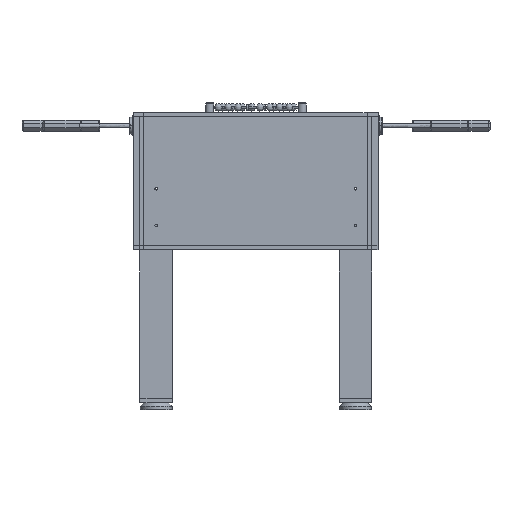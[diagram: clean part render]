
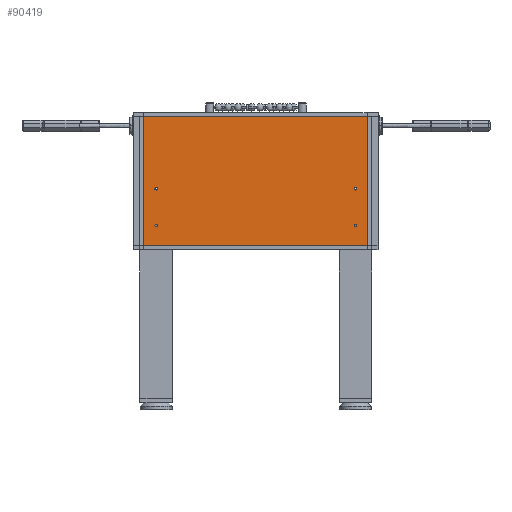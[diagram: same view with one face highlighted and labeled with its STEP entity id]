
A CAD part, left-side view. The second image highlights one B-rep face of the part: STEP entity #90419.
In plain terms, the highlighted free-form (B-spline) face has degree [1, 1] with [2, 2] control points.
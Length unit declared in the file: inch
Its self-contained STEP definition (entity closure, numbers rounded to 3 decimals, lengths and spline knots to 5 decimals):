
#90279 = CARTESIAN_POINT ('', (-28., -12.40625, -4.625));
#90280 = VERTEX_POINT ('', #90279);
#90299 = CARTESIAN_POINT ('', (-28., -12.40625, -4.625));
#90300 = CARTESIAN_POINT ('', (-28., -12.40625, -4.46875));
#90301 = CARTESIAN_POINT ('', (-28., -12.25, -4.46875));
#90302 = CARTESIAN_POINT ('', (-28., -12.09375, -4.46875));
#90303 = CARTESIAN_POINT ('', (-28., -12.09375, -4.625));
#90304 = CARTESIAN_POINT ('', (-28., -12.09375, -4.78125));
#90305 = CARTESIAN_POINT ('', (-28., -12.25, -4.78125));
#90306 = CARTESIAN_POINT ('', (-28., -12.40625, -4.78125));
#90307 = CARTESIAN_POINT ('', (-28., -12.40625, -4.625));
#90308 = (
   BOUNDED_CURVE ()
   B_SPLINE_CURVE (2, (#90299, #90300, #90301, #90302, #90303, #90304, #90305, #90306, #90307), .UNSPECIFIED., .T., .U.)
   B_SPLINE_CURVE_WITH_KNOTS ((3, 2, 2, 2, 3), (0., 0.25, 0.5, 0.75, 1.), .UNSPECIFIED.)
   CURVE ()
   GEOMETRIC_REPRESENTATION_ITEM ()
   RATIONAL_B_SPLINE_CURVE ((1., 0.707, 1., 0.707, 1., 0.707, 1., 0.707, 1.))
   REPRESENTATION_ITEM ('')
);
#90309 = EDGE_CURVE ('', #90280, #90280, #90308, .T.);
#90333 = CARTESIAN_POINT ('', (-28., -14.25, 4.25));
#90334 = VERTEX_POINT ('', #90333);
#90335 = CARTESIAN_POINT ('', (-28., 14.25, 4.25));
#90336 = VERTEX_POINT ('', #90335);
#90337 = CARTESIAN_POINT ('', (-28., -14.25, 4.25));
#90338 = CARTESIAN_POINT ('', (-28., 14.25, 4.25));
#90339 = B_SPLINE_CURVE_WITH_KNOTS ('', 1, (#90337, #90338), .UNSPECIFIED., .F., .U., (2, 2), (0.75, 29.25), .UNSPECIFIED.);
#90340 = EDGE_CURVE ('', #90334, #90336, #90339, .T.);
#90341 = ORIENTED_EDGE ('', *, *, #90340, .T.);
#90342 = CARTESIAN_POINT ('', (-28., 14.25, -11.625));
#90343 = VERTEX_POINT ('', #90342);
#90344 = CARTESIAN_POINT ('', (-28., 14.25, 4.25));
#90345 = CARTESIAN_POINT ('', (-28., 14.25, -11.625));
#90346 = B_SPLINE_CURVE_WITH_KNOTS ('', 1, (#90344, #90345), .UNSPECIFIED., .F., .U., (2, 2), (0.02963, 0.97037), .UNSPECIFIED.);
#90347 = EDGE_CURVE ('', #90336, #90343, #90346, .T.);
#90348 = ORIENTED_EDGE ('', *, *, #90347, .T.);
#90349 = CARTESIAN_POINT ('', (-28., -14.25, -11.625));
#90350 = VERTEX_POINT ('', #90349);
#90351 = CARTESIAN_POINT ('', (-28., -14.25, -11.625));
#90352 = CARTESIAN_POINT ('', (-28., 14.25, -11.625));
#90353 = B_SPLINE_CURVE_WITH_KNOTS ('', 1, (#90351, #90352), .UNSPECIFIED., .F., .U., (2, 2), (0.10417, 0.89583), .UNSPECIFIED.);
#90354 = EDGE_CURVE ('', #90350, #90343, #90353, .T.);
#90355 = ORIENTED_EDGE ('', *, *, #90354, .F.);
#90356 = CARTESIAN_POINT ('', (-28., -14.25, 4.25));
#90357 = CARTESIAN_POINT ('', (-28., -14.25, -11.625));
#90358 = B_SPLINE_CURVE_WITH_KNOTS ('', 1, (#90356, #90357), .UNSPECIFIED., .F., .U., (2, 2), (0.02963, 0.97037), .UNSPECIFIED.);
#90359 = EDGE_CURVE ('', #90334, #90350, #90358, .T.);
#90360 = ORIENTED_EDGE ('', *, *, #90359, .F.);
#90361 = EDGE_LOOP ('', (#90341, #90348, #90355, #90360));
#90362 = FACE_OUTER_BOUND ('', #90361, .T.);
#90363 = CARTESIAN_POINT ('', (-28., 12.09375, -4.625));
#90364 = VERTEX_POINT ('', #90363);
#90365 = CARTESIAN_POINT ('', (-28., 12.09375, -4.625));
#90366 = CARTESIAN_POINT ('', (-28., 12.09375, -4.46875));
#90367 = CARTESIAN_POINT ('', (-28., 12.25, -4.46875));
#90368 = CARTESIAN_POINT ('', (-28., 12.40625, -4.46875));
#90369 = CARTESIAN_POINT ('', (-28., 12.40625, -4.625));
#90370 = CARTESIAN_POINT ('', (-28., 12.40625, -4.78125));
#90371 = CARTESIAN_POINT ('', (-28., 12.25, -4.78125));
#90372 = CARTESIAN_POINT ('', (-28., 12.09375, -4.78125));
#90373 = CARTESIAN_POINT ('', (-28., 12.09375, -4.625));
#90374 = (
   BOUNDED_CURVE ()
   B_SPLINE_CURVE (2, (#90365, #90366, #90367, #90368, #90369, #90370, #90371, #90372, #90373), .UNSPECIFIED., .T., .U.)
   B_SPLINE_CURVE_WITH_KNOTS ((3, 2, 2, 2, 3), (0., 0.25, 0.5, 0.75, 1.), .UNSPECIFIED.)
   CURVE ()
   GEOMETRIC_REPRESENTATION_ITEM ()
   RATIONAL_B_SPLINE_CURVE ((1., 0.707, 1., 0.707, 1., 0.707, 1., 0.707, 1.))
   REPRESENTATION_ITEM ('')
);
#90375 = EDGE_CURVE ('', #90364, #90364, #90374, .T.);
#90376 = ORIENTED_EDGE ('', *, *, #90375, .F.);
#90377 = EDGE_LOOP ('', (#90376));
#90378 = FACE_BOUND ('', #90377, .T.);
#90379 = CARTESIAN_POINT ('', (-28., 12.09375, -9.125));
#90380 = VERTEX_POINT ('', #90379);
#90381 = CARTESIAN_POINT ('', (-28., 12.09375, -9.125));
#90382 = CARTESIAN_POINT ('', (-28., 12.09375, -8.96875));
#90383 = CARTESIAN_POINT ('', (-28., 12.25, -8.96875));
#90384 = CARTESIAN_POINT ('', (-28., 12.40625, -8.96875));
#90385 = CARTESIAN_POINT ('', (-28., 12.40625, -9.125));
#90386 = CARTESIAN_POINT ('', (-28., 12.40625, -9.28125));
#90387 = CARTESIAN_POINT ('', (-28., 12.25, -9.28125));
#90388 = CARTESIAN_POINT ('', (-28., 12.09375, -9.28125));
#90389 = CARTESIAN_POINT ('', (-28., 12.09375, -9.125));
#90390 = (
   BOUNDED_CURVE ()
   B_SPLINE_CURVE (2, (#90381, #90382, #90383, #90384, #90385, #90386, #90387, #90388, #90389), .UNSPECIFIED., .T., .U.)
   B_SPLINE_CURVE_WITH_KNOTS ((3, 2, 2, 2, 3), (0., 0.25, 0.5, 0.75, 1.), .UNSPECIFIED.)
   CURVE ()
   GEOMETRIC_REPRESENTATION_ITEM ()
   RATIONAL_B_SPLINE_CURVE ((1., 0.707, 1., 0.707, 1., 0.707, 1., 0.707, 1.))
   REPRESENTATION_ITEM ('')
);
#90391 = EDGE_CURVE ('', #90380, #90380, #90390, .T.);
#90392 = ORIENTED_EDGE ('', *, *, #90391, .F.);
#90393 = EDGE_LOOP ('', (#90392));
#90394 = FACE_BOUND ('', #90393, .T.);
#90395 = ORIENTED_EDGE ('', *, *, #90309, .F.);
#90396 = EDGE_LOOP ('', (#90395));
#90397 = FACE_BOUND ('', #90396, .T.);
#90398 = CARTESIAN_POINT ('', (-28., -12.40625, -9.125));
#90399 = VERTEX_POINT ('', #90398);
#90400 = CARTESIAN_POINT ('', (-28., -12.40625, -9.125));
#90401 = CARTESIAN_POINT ('', (-28., -12.40625, -8.96875));
#90402 = CARTESIAN_POINT ('', (-28., -12.25, -8.96875));
#90403 = CARTESIAN_POINT ('', (-28., -12.09375, -8.96875));
#90404 = CARTESIAN_POINT ('', (-28., -12.09375, -9.125));
#90405 = CARTESIAN_POINT ('', (-28., -12.09375, -9.28125));
#90406 = CARTESIAN_POINT ('', (-28., -12.25, -9.28125));
#90407 = CARTESIAN_POINT ('', (-28., -12.40625, -9.28125));
#90408 = CARTESIAN_POINT ('', (-28., -12.40625, -9.125));
#90409 = (
   BOUNDED_CURVE ()
   B_SPLINE_CURVE (2, (#90400, #90401, #90402, #90403, #90404, #90405, #90406, #90407, #90408), .UNSPECIFIED., .T., .U.)
   B_SPLINE_CURVE_WITH_KNOTS ((3, 2, 2, 2, 3), (0., 0.25, 0.5, 0.75, 1.), .UNSPECIFIED.)
   CURVE ()
   GEOMETRIC_REPRESENTATION_ITEM ()
   RATIONAL_B_SPLINE_CURVE ((1., 0.707, 1., 0.707, 1., 0.707, 1., 0.707, 1.))
   REPRESENTATION_ITEM ('')
);
#90410 = EDGE_CURVE ('', #90399, #90399, #90409, .T.);
#90411 = ORIENTED_EDGE ('', *, *, #90410, .F.);
#90412 = EDGE_LOOP ('', (#90411));
#90413 = FACE_BOUND ('', #90412, .T.);
#90414 = CARTESIAN_POINT ('', (-28., -14.25, 4.75));
#90415 = CARTESIAN_POINT ('', (-28., -14.25, -12.125));
#90416 = CARTESIAN_POINT ('', (-28., 14.25, 4.75));
#90417 = CARTESIAN_POINT ('', (-28., 14.25, -12.125));
#90418 = B_SPLINE_SURFACE_WITH_KNOTS ('', 1, 1, ((#90414, #90415), (#90416, #90417)), .UNSPECIFIED., .F., .F., .U., (2, 2), (2, 2), (0.75, 29.25), (0., 1.), .UNSPECIFIED.);
#90419 = ADVANCED_FACE ('', (#90362, #90378, #90394, #90397, #90413), #90418, .T.);
